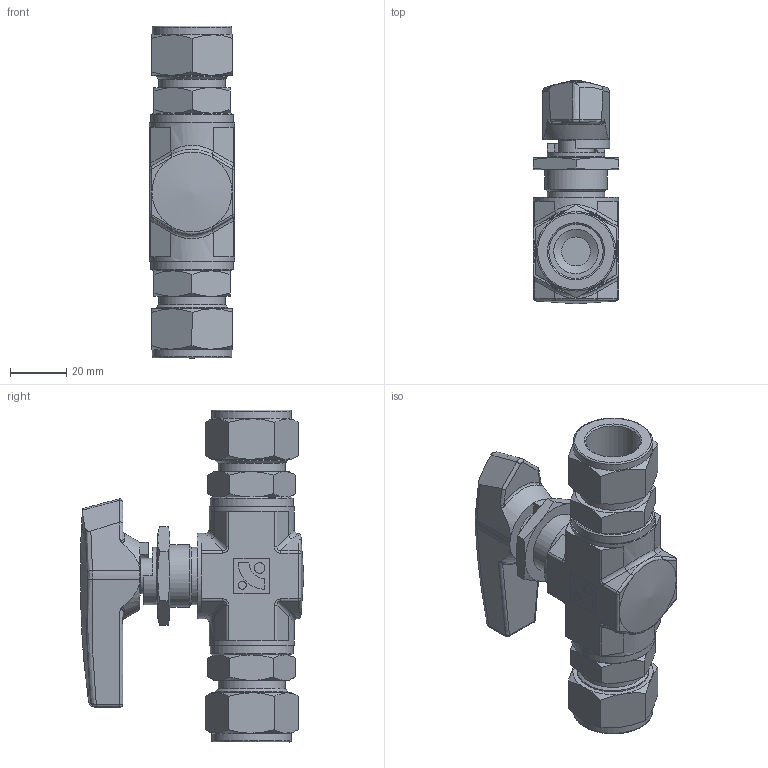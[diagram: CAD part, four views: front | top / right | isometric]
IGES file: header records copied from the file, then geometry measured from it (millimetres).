
Global section: file name: SBVF3603-S12; native system: Autodesk Inventor 2016; preprocessor: unknown; author: DESIGNPC2; date: 20160610.190521; units: millimetre
Bounding box: 30.2 x 79.3 x 117.79 mm (x, y, z)
Volume: 99224.1 mm3; surface area: 30458.1 mm2
Topology: 6 solids, 6 shells, 530 faces, 1354 edges, 870 vertices
Faces by surface type: bspline 530
